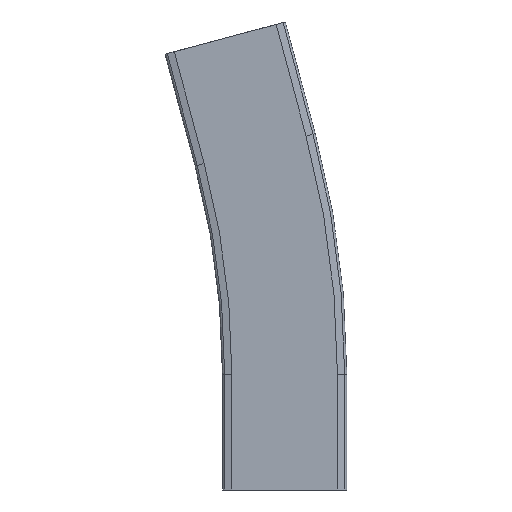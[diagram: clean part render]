
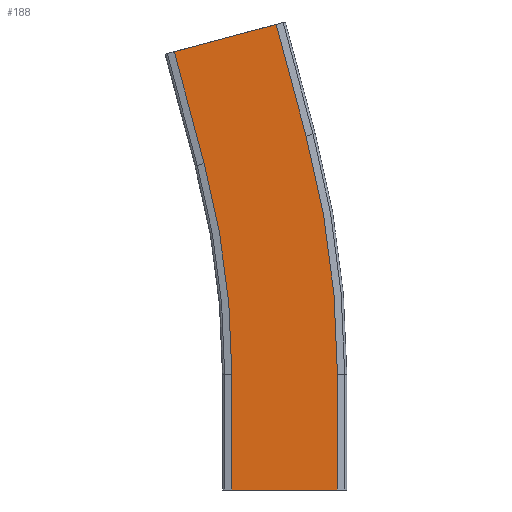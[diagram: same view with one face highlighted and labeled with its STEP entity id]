
A CAD part, front view. The second image highlights one B-rep face of the part: STEP entity #188.
In plain terms, the highlighted planar face has unit normal (0, -1, 0).
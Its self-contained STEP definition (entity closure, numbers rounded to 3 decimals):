
#75=CARTESIAN_POINT('',(-5.894,-11.,322.012));
#76=VERTEX_POINT('',#75);
#107=CARTESIAN_POINT('',(-76.406,-11.,303.119));
#108=VERTEX_POINT('',#107);
#115=CARTESIAN_POINT('',(-5.894,-11.,322.012));
#116=DIRECTION('',(-0.966,0.,-0.259));
#117=VECTOR('',#116,73.);
#118=LINE('',#115,#117);
#119=EDGE_CURVE('',#76,#108,#118,.T.);
#124=CARTESIAN_POINT('',(76.173,-11.,15.737));
#125=DIRECTION('',(0.0,-1.0,0.0));
#126=DIRECTION('',(0.259,0.0,-0.966));
#127=AXIS2_PLACEMENT_3D('',#124,#125,#126);
#128=PLANE('',#127);
#129=ORIENTED_EDGE('',*,*,#119,.T.);
#130=CARTESIAN_POINT('',(-55.701,-11.,225.845));
#131=VERTEX_POINT('',#130);
#132=CARTESIAN_POINT('',(-55.701,-11.,225.845));
#133=DIRECTION('',(-0.259,0.,0.966));
#134=VECTOR('',#133,80.);
#135=LINE('',#132,#134);
#136=EDGE_CURVE('',#131,#108,#135,.T.);
#137=ORIENTED_EDGE('',*,*,#136,.F.);
#138=CARTESIAN_POINT('',(-36.5,-11.,80.0));
#139=VERTEX_POINT('',#138);
#140=CARTESIAN_POINT('',(-600.0,-11.,80.0));
#141=DIRECTION('',(0.0,-1.0,0.0));
#142=DIRECTION('',(1.0,0.0,0.0));
#143=AXIS2_PLACEMENT_3D('',#140,#141,#142);
#144=CIRCLE('',#143,563.5);
#145=EDGE_CURVE('',#139,#131,#144,.T.);
#146=ORIENTED_EDGE('',*,*,#145,.F.);
#147=CARTESIAN_POINT('',(-36.5,-11.,0.0));
#148=VERTEX_POINT('',#147);
#149=CARTESIAN_POINT('',(-36.5,-11.,0.0));
#150=DIRECTION('',(0.0,0.0,1.0));
#151=VECTOR('',#150,80.0);
#152=LINE('',#149,#151);
#153=EDGE_CURVE('',#148,#139,#152,.T.);
#154=ORIENTED_EDGE('',*,*,#153,.F.);
#155=CARTESIAN_POINT('',(36.5,-11.,0.0));
#156=VERTEX_POINT('',#155);
#157=CARTESIAN_POINT('',(-36.5,-11.,0.0));
#158=DIRECTION('',(1.0,0.0,0.0));
#159=VECTOR('',#158,73.);
#160=LINE('',#157,#159);
#161=EDGE_CURVE('',#148,#156,#160,.T.);
#162=ORIENTED_EDGE('',*,*,#161,.T.);
#163=CARTESIAN_POINT('',(36.5,-11.,80.0));
#164=VERTEX_POINT('',#163);
#165=CARTESIAN_POINT('',(36.5,-11.,0.0));
#166=DIRECTION('',(0.0,0.0,1.0));
#167=VECTOR('',#166,80.0);
#168=LINE('',#165,#167);
#169=EDGE_CURVE('',#156,#164,#168,.T.);
#170=ORIENTED_EDGE('',*,*,#169,.T.);
#171=CARTESIAN_POINT('',(14.812,-11.,244.738));
#172=VERTEX_POINT('',#171);
#173=CARTESIAN_POINT('',(-600.0,-11.,80.0));
#174=DIRECTION('',(0.0,-1.0,0.0));
#175=DIRECTION('',(1.0,0.0,0.0));
#176=AXIS2_PLACEMENT_3D('',#173,#174,#175);
#177=CIRCLE('',#176,636.5);
#178=EDGE_CURVE('',#164,#172,#177,.T.);
#179=ORIENTED_EDGE('',*,*,#178,.T.);
#180=CARTESIAN_POINT('',(14.812,-11.,244.738));
#181=DIRECTION('',(-0.259,0.,0.966));
#182=VECTOR('',#181,80.);
#183=LINE('',#180,#182);
#184=EDGE_CURVE('',#172,#76,#183,.T.);
#185=ORIENTED_EDGE('',*,*,#184,.T.);
#186=EDGE_LOOP('',(#129,#137,#146,#154,#162,#170,#179,#185));
#187=FACE_OUTER_BOUND('',#186,.T.);
#188=ADVANCED_FACE('',(#187),#128,.T.);
